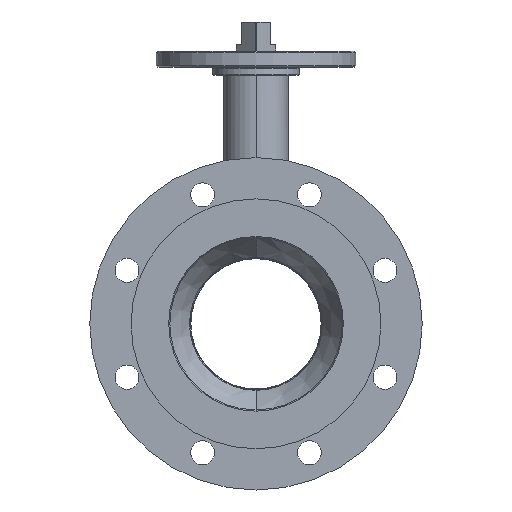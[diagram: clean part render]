
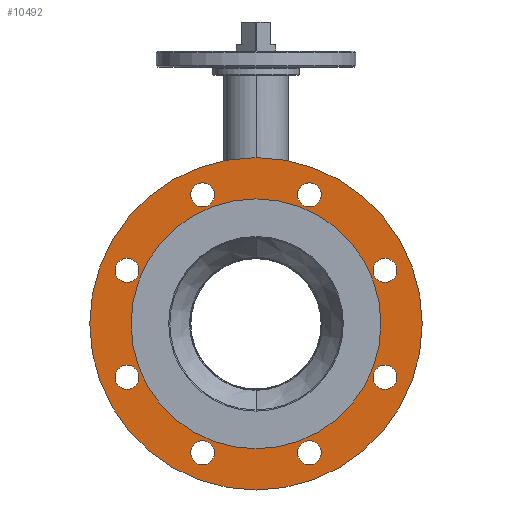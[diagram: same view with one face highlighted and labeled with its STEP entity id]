
A CAD part, left-side view. The second image highlights one B-rep face of the part: STEP entity #10492.
In plain terms, the highlighted planar face has unit normal (-1, 0, 0).
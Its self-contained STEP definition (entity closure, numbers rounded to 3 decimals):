
#921=CARTESIAN_POINT('',(-160.5,0.,0.));
#922=DIRECTION('',(1.,0.,0.));
#923=DIRECTION('',(0.,0.,-1.));
#924=AXIS2_PLACEMENT_3D('',#921,#922,#923);
#930=CARTESIAN_POINT('',(-160.5,0.,0.));
#931=DIRECTION('',(-1.,0.,0.));
#932=DIRECTION('',(0.,0.,-1.));
#933=AXIS2_PLACEMENT_3D('',#930,#931,#932);
#939=CARTESIAN_POINT('',(-160.5,0.,0.));
#940=DIRECTION('',(-1.,0.,0.));
#941=DIRECTION('',(0.,0.,-1.));
#942=AXIS2_PLACEMENT_3D('',#939,#940,#941);
#944=CARTESIAN_POINT('',(-160.5,0.,0.));
#945=DIRECTION('',(-1.,0.,0.));
#946=DIRECTION('',(0.,0.,1.));
#947=AXIS2_PLACEMENT_3D('',#944,#945,#946);
#949=CARTESIAN_POINT('',(-160.5,-40.182,97.007));
#950=DIRECTION('',(-1.,0.,0.));
#951=DIRECTION('',(0.,1.,0.));
#952=AXIS2_PLACEMENT_3D('',#949,#950,#951);
#954=CARTESIAN_POINT('',(-160.5,-40.182,97.007));
#955=DIRECTION('',(-1.,0.,0.));
#956=DIRECTION('',(0.,-1.,0.));
#957=AXIS2_PLACEMENT_3D('',#954,#955,#956);
#959=CARTESIAN_POINT('',(-160.5,-97.007,40.182));
#960=DIRECTION('',(-1.,0.,0.));
#961=DIRECTION('',(0.,1.,0.));
#962=AXIS2_PLACEMENT_3D('',#959,#960,#961);
#964=CARTESIAN_POINT('',(-160.5,-97.007,40.182));
#965=DIRECTION('',(-1.,0.,0.));
#966=DIRECTION('',(0.,-1.,0.));
#967=AXIS2_PLACEMENT_3D('',#964,#965,#966);
#969=CARTESIAN_POINT('',(-160.5,-97.007,-40.182));
#970=DIRECTION('',(-1.,0.,0.));
#971=DIRECTION('',(0.,1.,0.));
#972=AXIS2_PLACEMENT_3D('',#969,#970,#971);
#974=CARTESIAN_POINT('',(-160.5,-97.007,-40.182));
#975=DIRECTION('',(-1.,0.,0.));
#976=DIRECTION('',(0.,-1.,0.));
#977=AXIS2_PLACEMENT_3D('',#974,#975,#976);
#979=CARTESIAN_POINT('',(-160.5,-40.182,-97.007));
#980=DIRECTION('',(-1.,0.,0.));
#981=DIRECTION('',(0.,1.,0.));
#982=AXIS2_PLACEMENT_3D('',#979,#980,#981);
#984=CARTESIAN_POINT('',(-160.5,-40.182,-97.007));
#985=DIRECTION('',(-1.,0.,0.));
#986=DIRECTION('',(0.,-1.,0.));
#987=AXIS2_PLACEMENT_3D('',#984,#985,#986);
#989=CARTESIAN_POINT('',(-160.5,40.182,-97.007));
#990=DIRECTION('',(-1.,0.,0.));
#991=DIRECTION('',(0.,1.,0.));
#992=AXIS2_PLACEMENT_3D('',#989,#990,#991);
#994=CARTESIAN_POINT('',(-160.5,40.182,-97.007));
#995=DIRECTION('',(-1.,0.,0.));
#996=DIRECTION('',(0.,-1.,0.));
#997=AXIS2_PLACEMENT_3D('',#994,#995,#996);
#999=CARTESIAN_POINT('',(-160.5,97.007,-40.182));
#1000=DIRECTION('',(-1.,0.,0.));
#1001=DIRECTION('',(0.,1.,0.));
#1002=AXIS2_PLACEMENT_3D('',#999,#1000,#1001);
#1004=CARTESIAN_POINT('',(-160.5,97.007,-40.182));
#1005=DIRECTION('',(-1.,0.,0.));
#1006=DIRECTION('',(0.,-1.,0.));
#1007=AXIS2_PLACEMENT_3D('',#1004,#1005,#1006);
#1009=CARTESIAN_POINT('',(-160.5,97.007,40.182));
#1010=DIRECTION('',(-1.,0.,0.));
#1011=DIRECTION('',(0.,1.,0.));
#1012=AXIS2_PLACEMENT_3D('',#1009,#1010,#1011);
#1014=CARTESIAN_POINT('',(-160.5,97.007,40.182));
#1015=DIRECTION('',(-1.,0.,0.));
#1016=DIRECTION('',(0.,-1.,0.));
#1017=AXIS2_PLACEMENT_3D('',#1014,#1015,#1016);
#1019=CARTESIAN_POINT('',(-160.5,40.182,97.007));
#1020=DIRECTION('',(-1.,0.,0.));
#1021=DIRECTION('',(0.,1.,0.));
#1022=AXIS2_PLACEMENT_3D('',#1019,#1020,#1021);
#1024=CARTESIAN_POINT('',(-160.5,40.182,97.007));
#1025=DIRECTION('',(-1.,0.,0.));
#1026=DIRECTION('',(0.,-1.,0.));
#1027=AXIS2_PLACEMENT_3D('',#1024,#1025,#1026);
#8536=CARTESIAN_POINT('',(-160.5,0.,-94.));
#8537=CARTESIAN_POINT('',(-160.5,0.,94.));
#8538=VERTEX_POINT('',#8536);
#8539=VERTEX_POINT('',#8537);
#8540=CARTESIAN_POINT('',(-160.5,0.,-125.));
#8541=CARTESIAN_POINT('',(-160.5,0.,125.));
#8542=VERTEX_POINT('',#8540);
#8543=VERTEX_POINT('',#8541);
#8548=CARTESIAN_POINT('',(-160.5,-31.182,97.007));
#8549=CARTESIAN_POINT('',(-160.5,-49.182,97.007));
#8550=VERTEX_POINT('',#8548);
#8551=VERTEX_POINT('',#8549);
#8552=CARTESIAN_POINT('',(-160.5,-88.007,40.182));
#8553=CARTESIAN_POINT('',(-160.5,-106.007,40.182));
#8554=VERTEX_POINT('',#8552);
#8555=VERTEX_POINT('',#8553);
#8556=CARTESIAN_POINT('',(-160.5,-88.007,-40.182));
#8557=CARTESIAN_POINT('',(-160.5,-106.007,-40.182));
#8558=VERTEX_POINT('',#8556);
#8559=VERTEX_POINT('',#8557);
#8560=CARTESIAN_POINT('',(-160.5,-31.182,-97.007));
#8561=CARTESIAN_POINT('',(-160.5,-49.182,-97.007));
#8562=VERTEX_POINT('',#8560);
#8563=VERTEX_POINT('',#8561);
#8564=CARTESIAN_POINT('',(-160.5,49.182,-97.007));
#8565=CARTESIAN_POINT('',(-160.5,31.182,-97.007));
#8566=VERTEX_POINT('',#8564);
#8567=VERTEX_POINT('',#8565);
#8568=CARTESIAN_POINT('',(-160.5,106.007,-40.182));
#8569=CARTESIAN_POINT('',(-160.5,88.007,-40.182));
#8570=VERTEX_POINT('',#8568);
#8571=VERTEX_POINT('',#8569);
#8572=CARTESIAN_POINT('',(-160.5,106.007,40.182));
#8573=CARTESIAN_POINT('',(-160.5,88.007,40.182));
#8574=VERTEX_POINT('',#8572);
#8575=VERTEX_POINT('',#8573);
#8576=CARTESIAN_POINT('',(-160.5,49.182,97.007));
#8577=CARTESIAN_POINT('',(-160.5,31.182,97.007));
#8578=VERTEX_POINT('',#8576);
#8579=VERTEX_POINT('',#8577);
#10429=CARTESIAN_POINT('',(-160.5,0.,0.));
#10430=DIRECTION('',(1.,0.,0.));
#10431=DIRECTION('',(0.,0.,-1.));
#10432=AXIS2_PLACEMENT_3D('',#10429,#10430,#10431);
#10433=PLANE('',#10432);
#10435=ORIENTED_EDGE('',*,*,#10434,.F.);
#10437=ORIENTED_EDGE('',*,*,#10436,.F.);
#10438=EDGE_LOOP('',(#10435,#10437));
#10439=FACE_OUTER_BOUND('',#10438,.F.);
#10440=ORIENTED_EDGE('',*,*,#10423,.T.);
#10441=ORIENTED_EDGE('',*,*,#10409,.F.);
#10442=EDGE_LOOP('',(#10440,#10441));
#10443=FACE_BOUND('',#10442,.F.);
#10445=ORIENTED_EDGE('',*,*,#10444,.T.);
#10447=ORIENTED_EDGE('',*,*,#10446,.T.);
#10448=EDGE_LOOP('',(#10445,#10447));
#10449=FACE_BOUND('',#10448,.F.);
#10451=ORIENTED_EDGE('',*,*,#10450,.T.);
#10453=ORIENTED_EDGE('',*,*,#10452,.T.);
#10454=EDGE_LOOP('',(#10451,#10453));
#10455=FACE_BOUND('',#10454,.F.);
#10457=ORIENTED_EDGE('',*,*,#10456,.T.);
#10459=ORIENTED_EDGE('',*,*,#10458,.T.);
#10460=EDGE_LOOP('',(#10457,#10459));
#10461=FACE_BOUND('',#10460,.F.);
#10463=ORIENTED_EDGE('',*,*,#10462,.T.);
#10465=ORIENTED_EDGE('',*,*,#10464,.T.);
#10466=EDGE_LOOP('',(#10463,#10465));
#10467=FACE_BOUND('',#10466,.F.);
#10469=ORIENTED_EDGE('',*,*,#10468,.T.);
#10471=ORIENTED_EDGE('',*,*,#10470,.T.);
#10472=EDGE_LOOP('',(#10469,#10471));
#10473=FACE_BOUND('',#10472,.F.);
#10475=ORIENTED_EDGE('',*,*,#10474,.T.);
#10477=ORIENTED_EDGE('',*,*,#10476,.T.);
#10478=EDGE_LOOP('',(#10475,#10477));
#10479=FACE_BOUND('',#10478,.F.);
#10481=ORIENTED_EDGE('',*,*,#10480,.T.);
#10483=ORIENTED_EDGE('',*,*,#10482,.T.);
#10484=EDGE_LOOP('',(#10481,#10483));
#10485=FACE_BOUND('',#10484,.F.);
#10487=ORIENTED_EDGE('',*,*,#10486,.T.);
#10489=ORIENTED_EDGE('',*,*,#10488,.T.);
#10490=EDGE_LOOP('',(#10487,#10489));
#10491=FACE_BOUND('',#10490,.F.);
#10492=ADVANCED_FACE('',(#10439,#10443,#10449,#10455,#10461,#10467,#10473,
#10479,#10485,#10491),#10433,.F.);
#925=CIRCLE('',#924,94.);
#934=CIRCLE('',#933,94.);
#943=CIRCLE('',#942,125.);
#948=CIRCLE('',#947,125.);
#953=CIRCLE('',#952,9.);
#958=CIRCLE('',#957,9.);
#963=CIRCLE('',#962,9.);
#968=CIRCLE('',#967,9.);
#973=CIRCLE('',#972,9.);
#978=CIRCLE('',#977,9.);
#983=CIRCLE('',#982,9.);
#988=CIRCLE('',#987,9.);
#993=CIRCLE('',#992,9.);
#998=CIRCLE('',#997,9.);
#1003=CIRCLE('',#1002,9.);
#1008=CIRCLE('',#1007,9.);
#1013=CIRCLE('',#1012,9.);
#1018=CIRCLE('',#1017,9.);
#1023=CIRCLE('',#1022,9.);
#1028=CIRCLE('',#1027,9.);
#10409=EDGE_CURVE('',#8538,#8539,#925,.T.);
#10423=EDGE_CURVE('',#8538,#8539,#934,.T.);
#10434=EDGE_CURVE('',#8542,#8543,#943,.T.);
#10436=EDGE_CURVE('',#8543,#8542,#948,.T.);
#10444=EDGE_CURVE('',#8550,#8551,#953,.T.);
#10446=EDGE_CURVE('',#8551,#8550,#958,.T.);
#10450=EDGE_CURVE('',#8554,#8555,#963,.T.);
#10452=EDGE_CURVE('',#8555,#8554,#968,.T.);
#10456=EDGE_CURVE('',#8558,#8559,#973,.T.);
#10458=EDGE_CURVE('',#8559,#8558,#978,.T.);
#10462=EDGE_CURVE('',#8562,#8563,#983,.T.);
#10464=EDGE_CURVE('',#8563,#8562,#988,.T.);
#10468=EDGE_CURVE('',#8566,#8567,#993,.T.);
#10470=EDGE_CURVE('',#8567,#8566,#998,.T.);
#10474=EDGE_CURVE('',#8570,#8571,#1003,.T.);
#10476=EDGE_CURVE('',#8571,#8570,#1008,.T.);
#10480=EDGE_CURVE('',#8574,#8575,#1013,.T.);
#10482=EDGE_CURVE('',#8575,#8574,#1018,.T.);
#10486=EDGE_CURVE('',#8578,#8579,#1023,.T.);
#10488=EDGE_CURVE('',#8579,#8578,#1028,.T.);
